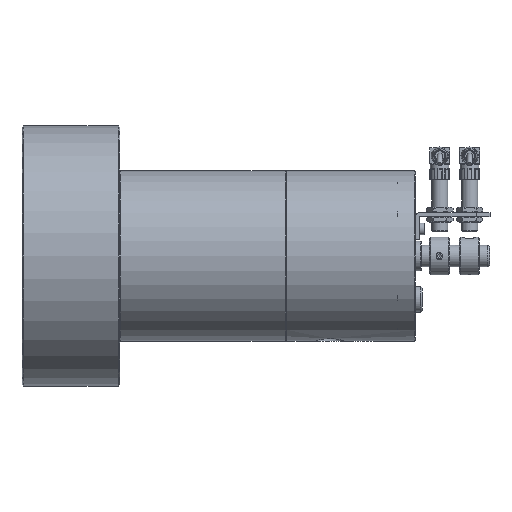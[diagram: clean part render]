
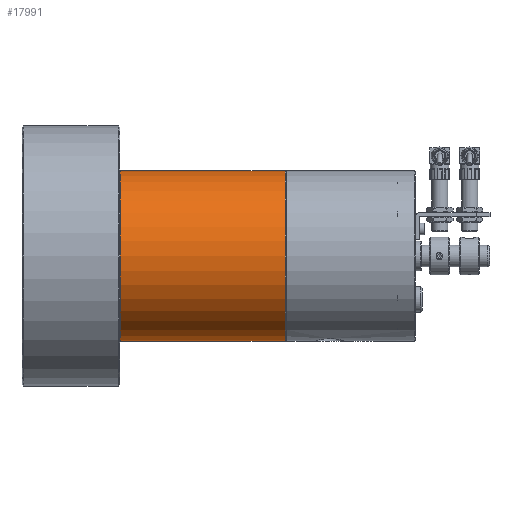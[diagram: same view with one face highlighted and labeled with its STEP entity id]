
A CAD part, front view. The second image highlights one B-rep face of the part: STEP entity #17991.
In plain terms, the highlighted cylindrical face has radius 62.985 mm (diameter 125.97 mm), a full revolution.
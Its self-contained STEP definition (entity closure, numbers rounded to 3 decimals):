
#17905=CARTESIAN_POINT('',(-1.,62.985,0.));
#17906=VERTEX_POINT('',#17905);
#17907=CARTESIAN_POINT('',(-1.,0.0,0.0));
#17908=DIRECTION('',(1.0,0.0,0.0));
#17909=DIRECTION('',(0.0,-1.0,0.0));
#17910=AXIS2_PLACEMENT_3D('',#17907,#17908,#17909);
#17911=CIRCLE('',#17910,62.985);
#17912=EDGE_CURVE('',#17906,#17906,#17911,.T.);
#17972=CARTESIAN_POINT('',(-61.5,0.0,0.0));
#17973=DIRECTION('',(1.0,0.0,0.0));
#17974=DIRECTION('',(0.0,1.0,0.0));
#17975=AXIS2_PLACEMENT_3D('',#17972,#17973,#17974);
#17976=CYLINDRICAL_SURFACE('',#17975,62.985);
#17977=ORIENTED_EDGE('',*,*,#17912,.F.);
#17978=EDGE_LOOP('',(#17977));
#17979=FACE_OUTER_BOUND('',#17978,.T.);
#17980=CARTESIAN_POINT('',(-122.5,62.985,0.));
#17981=VERTEX_POINT('',#17980);
#17982=CARTESIAN_POINT('',(-122.5,0.0,0.0));
#17983=DIRECTION('',(-1.0,0.0,0.0));
#17984=DIRECTION('',(0.0,-1.0,0.0));
#17985=AXIS2_PLACEMENT_3D('',#17982,#17983,#17984);
#17986=CIRCLE('',#17985,62.985);
#17987=EDGE_CURVE('',#17981,#17981,#17986,.T.);
#17988=ORIENTED_EDGE('',*,*,#17987,.F.);
#17989=EDGE_LOOP('',(#17988));
#17990=FACE_BOUND('',#17989,.T.);
#17991=ADVANCED_FACE('',(#17979,#17990),#17976,.T.);
